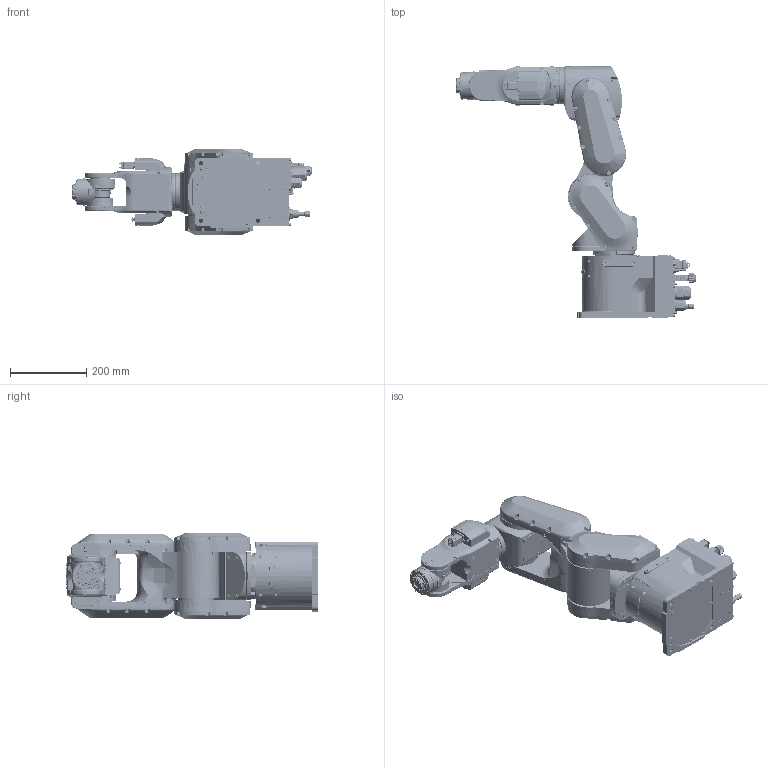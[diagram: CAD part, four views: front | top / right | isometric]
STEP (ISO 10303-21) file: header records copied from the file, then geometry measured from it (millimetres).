
FILE_DESCRIPTION (( 'STEP AP214' ), '1' );
FILE_NAME ('CX4-x601P.STEP', '2026-07-23T17:15:45', ( '' ), ( '' ), 'SwSTEP 2.0', 'SolidWorks 2020', '' );
FILE_SCHEMA (( 'AUTOMOTIVE_DESIGN' ));
Length unit declared in the file: millimetre
Products named in the file (8): CX4-A601P_BASE; CX4-A601P_J3; CX4-A601P_J2; CX4-A601P_J5; CX4-A601P_J4; CX4-A601P_J1; CX4-A601P_J6; CX4-x601P
Assembly tree (7 placements, depth 2):
  CX4-x601P
    CX4-A601P_BASE
    CX4-A601P_J1
    CX4-A601P_J2
    CX4-A601P_J3
    CX4-A601P_J4
    CX4-A601P_J5
    CX4-A601P_J6
Bounding box: 628 x 662 x 228 mm (x, y, z)
Volume: 9410257.6 mm3; surface area: 1064566.8 mm2
Topology: 5 solids, 7 shells, 5194 faces, 13013 edges, 8133 vertices
Faces by surface type: plane 1934, cylinder 1792, cone 921, torus 439, bspline 70, sphere 38
Entity records: 235321 total; most frequent: CARTESIAN_POINT 92496, ORIENTED_EDGE 25730, DIRECTION 19582, EDGE_CURVE 12869, AXIS2_PLACEMENT_3D 8134, VERTEX_POINT 8133, B_SPLINE_CURVE_WITH_KNOTS 6528, EDGE_LOOP 5678
